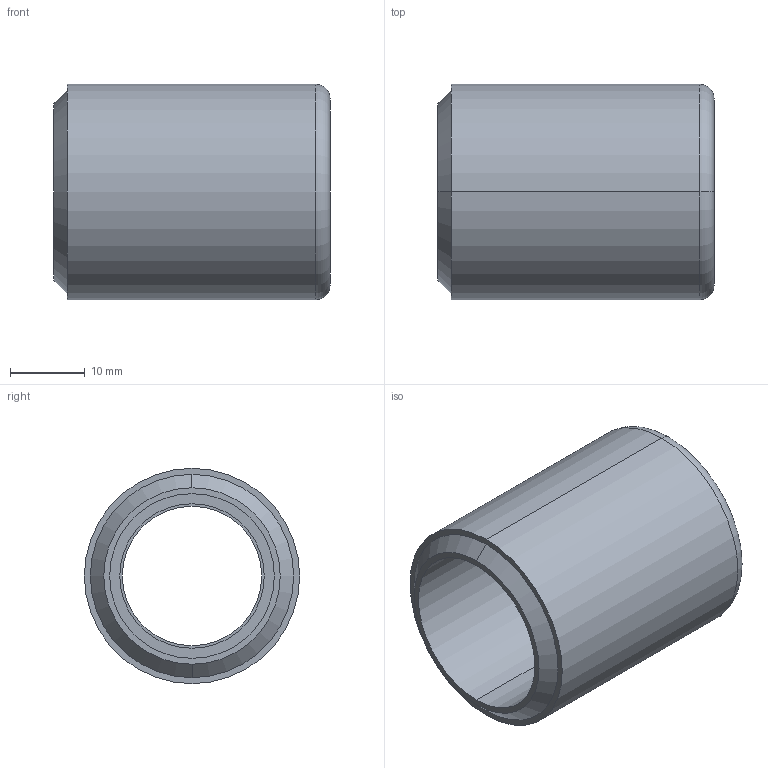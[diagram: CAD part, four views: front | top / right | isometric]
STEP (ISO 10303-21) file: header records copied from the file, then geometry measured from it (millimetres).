
FILE_DESCRIPTION (( 'STEP AP214' ), '1' );
FILE_NAME ('CR-INFV-03-04.STEP', '2020-12-10T16:57:32', ( '' ), ( '' ), 'SwSTEP 2.0', 'SolidWorks 2019', '' );
FILE_SCHEMA (( 'AUTOMOTIVE_DESIGN' ));
Length unit declared in the file: inch
Products named in the file (1): CR-INFV-03-04
Bounding box: 36.87 x 28.75 x 28.75 mm (x, y, z)
Volume: 11332.8 mm3; surface area: 6285.1 mm2
Topology: 1 solids, 1 shells, 20 faces, 40 edges, 26 vertices
Faces by surface type: cylinder 10, plane 6, cone 2, torus 2
Entity records: 840 total; most frequent: DIRECTION 110, CARTESIAN_POINT 87, ORIENTED_EDGE 80, AXIS2_PLACEMENT_3D 49, EDGE_CURVE 40, CIRCLE 28, EDGE_LOOP 26, VERTEX_POINT 26
